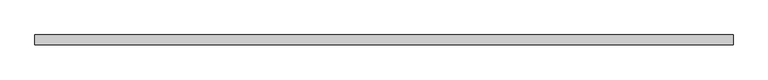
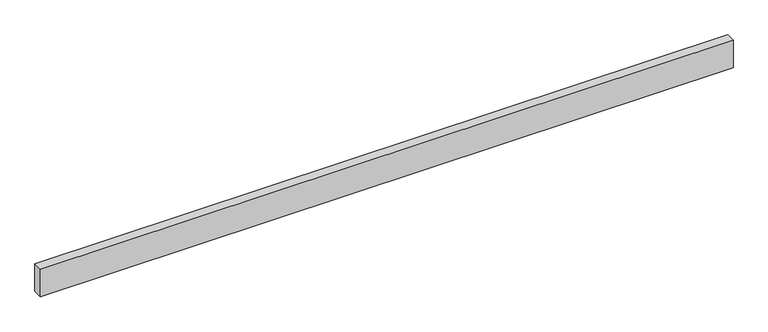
"""IFC4 building model written with IfcOpenShell, lengths in millimetres: beam geometry, Деревянный брус : 50х150."""

from ifc_helpers import new_model, si_unit, frame, origin, place, context, project, spatial, polyline, outline, extrude, source, transform, mapped, element, save


def beam_10aa4ee0(model_context):
    return source(origin(), model_context, "Body", "SweptSolid", [
        extrude(outline(polyline([(1800.0, 25.0), (1800.0, -25.0), (-1800.0, -25.0), (-1800.0, 25.0), (1800.0, 25.0)])), frame((0.0, 0.0, -75.0), z_axis=(0.0, 0.0, 1.0), x_axis=(1.0, 0.0, 0.0)), (0.0, 0.0, 1.0), 150.0),
    ])


if __name__ == "__main__":
    model = new_model("IFC4")
    model_context = context("Model", 3, world=origin())
    ifc_project = project(units=[si_unit("LENGTHUNIT", "METRE", prefix="MILLI")], contexts=[model_context])
    site = spatial("IfcSite", under=ifc_project)
    building = spatial("IfcBuilding", under=site)
    placement = place(None, origin())
    beam_shape = beam_10aa4ee0(model_context)
    element("IfcBeam", 1, ObjectType="Деревянный брус : 50х150", at=placement, inside=building, context=model_context, shape_type="MappedRepresentation", body=[
        mapped(beam_shape, transform((0.0, 0.0, 0.0), x_axis=(1.0, 0.0, 0.0), y_axis=(0.0, 1.0, 0.0), z_axis=(0.0, 0.0, 1.0))),
    ])
    save(model, "model.ifc")
